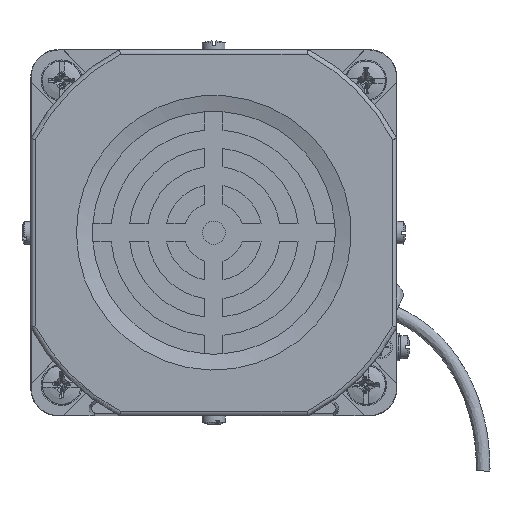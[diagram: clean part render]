
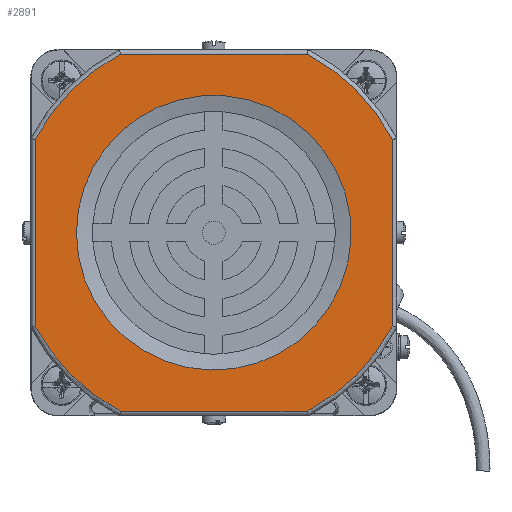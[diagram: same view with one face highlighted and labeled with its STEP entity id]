
A CAD part, left-side view. The second image highlights one B-rep face of the part: STEP entity #2891.
In plain terms, the highlighted planar face has unit normal (-1, 0, 0).
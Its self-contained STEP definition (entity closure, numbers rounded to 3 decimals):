
#1954=FACE_BOUND('',#5039,.T.);
#1955=FACE_BOUND('',#5040,.T.);
#2891=ADVANCED_FACE('',(#1954,#1955),#3546,.F.);
#3546=PLANE('',#16835);
#5039=EDGE_LOOP('',(#7764));
#5040=EDGE_LOOP('',(#7765,#7766,#7767,#7768,#7769,#7770,#7771,#7772));
#7764=ORIENTED_EDGE('',*,*,#13087,.T.);
#7765=ORIENTED_EDGE('',*,*,#13088,.T.);
#7766=ORIENTED_EDGE('',*,*,#13089,.T.);
#7767=ORIENTED_EDGE('',*,*,#13090,.T.);
#7768=ORIENTED_EDGE('',*,*,#13091,.T.);
#7769=ORIENTED_EDGE('',*,*,#13092,.T.);
#7770=ORIENTED_EDGE('',*,*,#13093,.T.);
#7771=ORIENTED_EDGE('',*,*,#13094,.T.);
#7772=ORIENTED_EDGE('',*,*,#13095,.T.);
#11159=VERTEX_POINT('',#25241);
#11160=VERTEX_POINT('',#25243);
#11161=VERTEX_POINT('',#25244);
#11162=VERTEX_POINT('',#25246);
#11163=VERTEX_POINT('',#25248);
#11164=VERTEX_POINT('',#25250);
#11165=VERTEX_POINT('',#25252);
#11166=VERTEX_POINT('',#25254);
#11167=VERTEX_POINT('',#25256);
#13087=EDGE_CURVE('',#11159,#11159,#16012,.T.);
#13088=EDGE_CURVE('',#11160,#11161,#14675,.T.);
#13089=EDGE_CURVE('',#11161,#11162,#16013,.T.);
#13090=EDGE_CURVE('',#11162,#11163,#14676,.T.);
#13091=EDGE_CURVE('',#11163,#11164,#16014,.T.);
#13092=EDGE_CURVE('',#11164,#11165,#14677,.T.);
#13093=EDGE_CURVE('',#11165,#11166,#16015,.T.);
#13094=EDGE_CURVE('',#11166,#11167,#14678,.T.);
#13095=EDGE_CURVE('',#11167,#11160,#16016,.T.);
#14675=LINE('',#25242,#15271);
#14676=LINE('',#25247,#15272);
#14677=LINE('',#25251,#15273);
#14678=LINE('',#25255,#15274);
#15271=VECTOR('',#18811,1.);
#15272=VECTOR('',#18814,1.);
#15273=VECTOR('',#18817,1.);
#15274=VECTOR('',#18820,1.);
#16012=CIRCLE('',#16830,30.);
#16013=CIRCLE('',#16831,44.);
#16014=CIRCLE('',#16832,44.);
#16015=CIRCLE('',#16833,44.);
#16016=CIRCLE('',#16834,44.);
#16830=AXIS2_PLACEMENT_3D('',#25240,#18809,#18810);
#16831=AXIS2_PLACEMENT_3D('',#25245,#18812,#18813);
#16832=AXIS2_PLACEMENT_3D('',#25249,#18815,#18816);
#16833=AXIS2_PLACEMENT_3D('',#25253,#18818,#18819);
#16834=AXIS2_PLACEMENT_3D('',#25257,#18821,#18822);
#16835=AXIS2_PLACEMENT_3D('',#25258,#18823,#18824);
#18809=DIRECTION('',(1.,0.,0.));
#18810=DIRECTION('',(0.,1.,0.));
#18811=DIRECTION('',(0.,1.,0.));
#18812=DIRECTION('',(-1.,0.,0.));
#18813=DIRECTION('',(0.,0.,-1.));
#18814=DIRECTION('',(0.,0.,-1.));
#18815=DIRECTION('',(-1.,0.,0.));
#18816=DIRECTION('',(0.,0.,-1.));
#18817=DIRECTION('',(0.,-1.,0.));
#18818=DIRECTION('',(-1.,0.,0.));
#18819=DIRECTION('',(0.,0.,-1.));
#18820=DIRECTION('',(0.,0.,1.));
#18821=DIRECTION('',(-1.,0.,0.));
#18822=DIRECTION('',(0.,0.,-1.));
#18823=DIRECTION('',(1.,0.,0.));
#18824=DIRECTION('',(0.,0.,-1.));
#25240=CARTESIAN_POINT('',(-102.,40.,40.));
#25241=CARTESIAN_POINT('',(-102.,70.,40.));
#25242=CARTESIAN_POINT('',(-102.,60.616,79.));
#25243=CARTESIAN_POINT('',(-102.,19.628,79.));
#25244=CARTESIAN_POINT('',(-102.,60.372,79.));
#25245=CARTESIAN_POINT('',(-102.,40.,40.));
#25246=CARTESIAN_POINT('',(-102.,79.,60.372));
#25247=CARTESIAN_POINT('',(-102.,79.,19.384));
#25248=CARTESIAN_POINT('',(-102.,79.,19.628));
#25249=CARTESIAN_POINT('',(-102.,40.,40.));
#25250=CARTESIAN_POINT('',(-102.,60.372,1.));
#25251=CARTESIAN_POINT('',(-102.,19.384,1.));
#25252=CARTESIAN_POINT('',(-102.,19.628,1.));
#25253=CARTESIAN_POINT('',(-102.,40.,40.));
#25254=CARTESIAN_POINT('',(-102.,1.,19.628));
#25255=CARTESIAN_POINT('',(-102.,1.,60.616));
#25256=CARTESIAN_POINT('',(-102.,1.,60.372));
#25257=CARTESIAN_POINT('',(-102.,40.,40.));
#25258=CARTESIAN_POINT('',(-102.,40.,40.));
